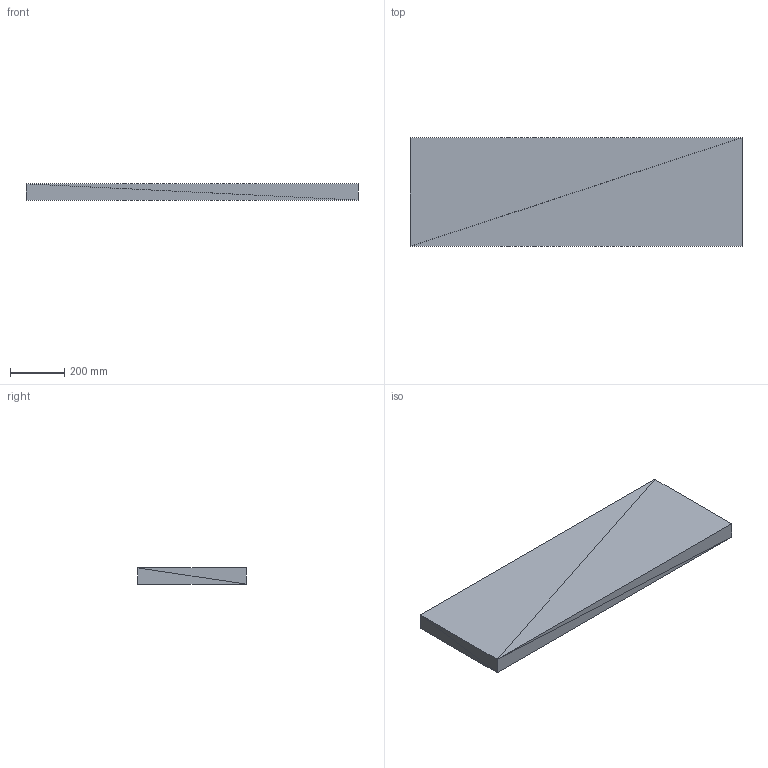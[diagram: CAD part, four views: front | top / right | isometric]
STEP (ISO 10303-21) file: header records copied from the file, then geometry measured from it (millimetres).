
FILE_DESCRIPTION(('ISINAC STEP AP214'),'2;1');
FILE_NAME('ISINAC_R.1220.400_60mm_ADHESIVO','2026-05-03T10:49:19',('ISINAC'),('www.isinac.com'),'ISINAC BIM Generator 1.0','','');
FILE_SCHEMA(('AUTOMOTIVE_DESIGN'));
Length unit declared in the file: millimetre
Products named in the file (1): ISINAC_R.1220.400_60mm_ADHESIVO
Bounding box: 1220 x 400 x 60 mm (x, y, z)
Surface area: 1170400 mm2 (no closed solid volume)
Topology: 0 solids, 12 shells, 12 faces, 36 edges, 36 vertices
Faces by surface type: plane 12
Entity records: 145 total; most frequent: CARTESIAN_POINT 48, DIRECTION 24, POLY_LOOP 12, FACE_OUTER_BOUND 12, AXIS2_PLACEMENT_3D 12, PLANE 12, FACE_SURFACE 12, CLOSED_SHELL 1
